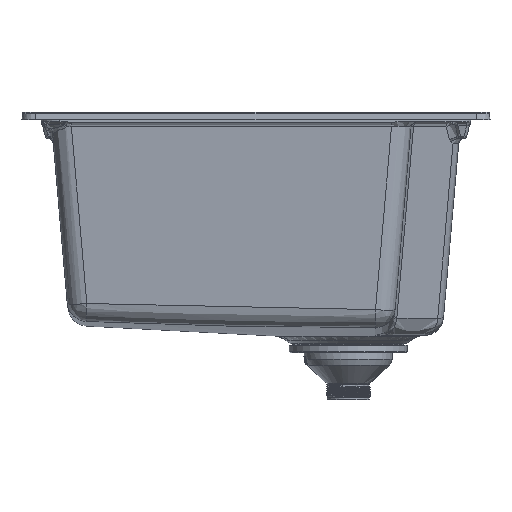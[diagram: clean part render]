
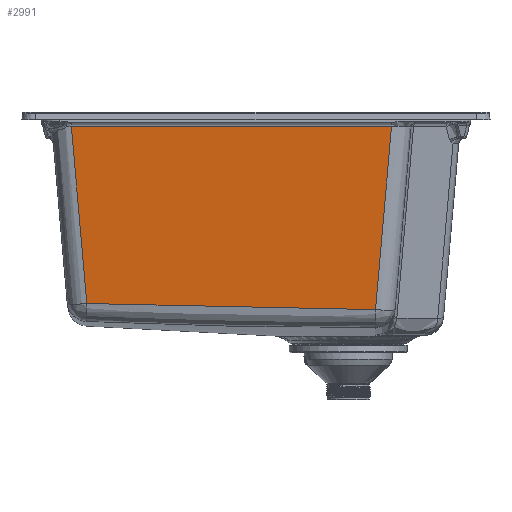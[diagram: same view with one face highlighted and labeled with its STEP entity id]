
A CAD part, front view. The second image highlights one B-rep face of the part: STEP entity #2991.
In plain terms, the highlighted planar face has unit normal (0, -0.996, -0.087).
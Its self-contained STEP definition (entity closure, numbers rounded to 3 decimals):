
#2991=ADVANCED_FACE('',(#3956),#17507,.T.);
#3956=FACE_OUTER_BOUND('',#4966,.T.);
#4966=EDGE_LOOP('',(#10103,#10104,#10105,#10106));
#10103=ORIENTED_EDGE('',*,*,#13093,.T.);
#10104=ORIENTED_EDGE('',*,*,#13081,.F.);
#10105=ORIENTED_EDGE('',*,*,#13072,.F.);
#10106=ORIENTED_EDGE('',*,*,#12997,.T.);
#12997=EDGE_CURVE('',#16797,#16798,#15014,.T.);
#13072=EDGE_CURVE('',#16797,#16809,#15042,.T.);
#13081=EDGE_CURVE('',#16809,#16813,#15049,.T.);
#13093=EDGE_CURVE('',#16798,#16813,#15056,.T.);
#15014=B_SPLINE_CURVE_WITH_KNOTS('',1,(#43490,#43491),.UNSPECIFIED.,.F.,
 .F.,(2,2),(-341.998,0.),.UNSPECIFIED.);
#15042=B_SPLINE_CURVE_WITH_KNOTS('',1,(#44067,#44068),.UNSPECIFIED.,.F.,
 .F.,(2,2),(0.,196.874),.UNSPECIFIED.);
#15049=B_SPLINE_CURVE_WITH_KNOTS('',3,(#44121,#44122,#44123,#44124,#44125,
#44126,#44127,#44128,#44129,#44130,#44131,#44132,#44133),.UNSPECIFIED.,
 .F.,.F.,(4,3,3,3,4),(-308.478,-299.069,-220.222,
-131.981,0.),.UNSPECIFIED.);
#15056=B_SPLINE_CURVE_WITH_KNOTS('',1,(#44504,#44505),.UNSPECIFIED.,.F.,
 .F.,(2,2),(-190.321,0.),.UNSPECIFIED.);
#16797=VERTEX_POINT('',#41179);
#16798=VERTEX_POINT('',#41180);
#16809=VERTEX_POINT('',#41191);
#16813=VERTEX_POINT('',#41195);
#17507=PLANE('',#18927);
#18927=AXIS2_PLACEMENT_3D('',#39537,#20986,$);
#20986=DIRECTION('',(0.,-0.996,-0.087));
#39537=CARTESIAN_POINT('',(-231.569,-257.891,42.206));
#41179=CARTESIAN_POINT('',(144.749,-256.169,22.523));
#41180=CARTESIAN_POINT('',(-197.249,-256.169,22.523));
#41191=CARTESIAN_POINT('',(127.655,-239.075,-172.861));
#41195=CARTESIAN_POINT('',(-180.724,-239.644,-166.358));
#43490=CARTESIAN_POINT('',(144.749,-256.169,22.523));
#43491=CARTESIAN_POINT('',(-197.249,-256.169,22.523));
#44067=CARTESIAN_POINT('',(144.749,-256.169,22.523));
#44068=CARTESIAN_POINT('',(127.655,-239.075,-172.861));
#44121=CARTESIAN_POINT('',(127.655,-239.075,-172.861));
#44122=CARTESIAN_POINT('',(124.519,-239.073,-172.88));
#44123=CARTESIAN_POINT('',(121.382,-239.072,-172.896));
#44124=CARTESIAN_POINT('',(118.246,-239.071,-172.908));
#44125=CARTESIAN_POINT('',(91.96,-239.062,-173.012));
#44126=CARTESIAN_POINT('',(65.679,-239.073,-172.878));
#44127=CARTESIAN_POINT('',(39.402,-239.102,-172.552));
#44128=CARTESIAN_POINT('',(9.99,-239.134,-172.188));
#44129=CARTESIAN_POINT('',(-19.417,-239.187,-171.583));
#44130=CARTESIAN_POINT('',(-48.82,-239.255,-170.804));
#44131=CARTESIAN_POINT('',(-92.795,-239.357,-169.639));
#44132=CARTESIAN_POINT('',(-136.761,-239.493,-168.084));
#44133=CARTESIAN_POINT('',(-180.724,-239.644,-166.358));
#44504=CARTESIAN_POINT('',(-197.249,-256.169,22.523));
#44505=CARTESIAN_POINT('',(-180.724,-239.644,-166.358));
